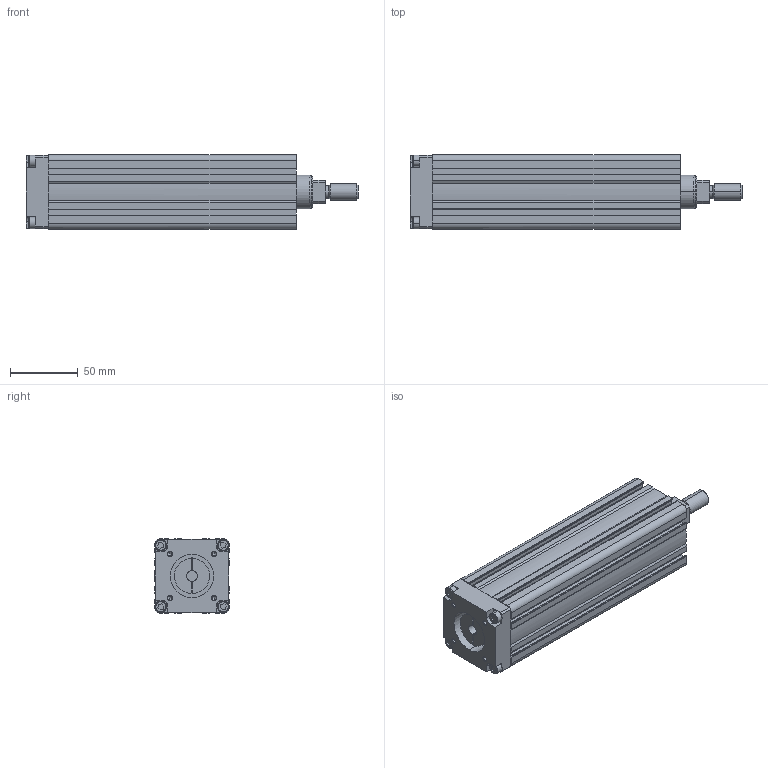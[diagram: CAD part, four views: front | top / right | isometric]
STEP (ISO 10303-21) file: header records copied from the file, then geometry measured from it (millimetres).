
FILE_DESCRIPTION (( 'STEP AP203' ), '1' );
FILE_NAME ('RD-55T-50.STEP', '2010-06-14T17:41:52', ( 'render' ), ( '' ), 'SwSTEP 2.0', 'SolidWorks 2009', '' );
FILE_SCHEMA (( 'CONFIG_CONTROL_DESIGN' ));
Length unit declared in the file: millimetre
Products named in the file (1): RD-55T-50
Bounding box: 245 x 55 x 55 mm (x, y, z)
Volume: 536308 mm3; surface area: 89485.9 mm2
Topology: 2 solids, 2 shells, 383 faces, 979 edges, 616 vertices
Faces by surface type: plane 230, cylinder 101, cone 44, bspline 8
Entity records: 11676 total; most frequent: CARTESIAN_POINT 2234, DIRECTION 1967, ORIENTED_EDGE 1942, EDGE_CURVE 971, LINE 689, VECTOR 689, AXIS2_PLACEMENT_3D 639, VERTEX_POINT 616
